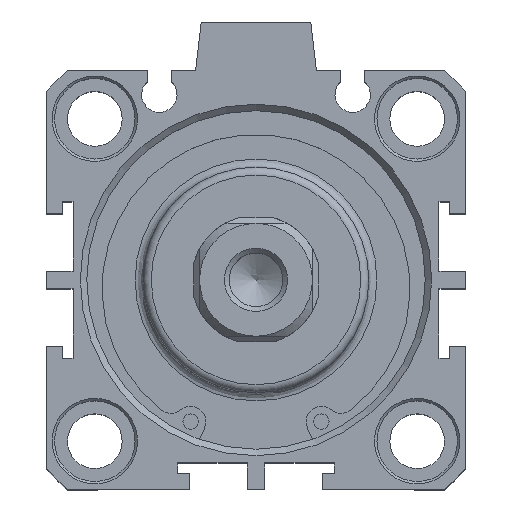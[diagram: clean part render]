
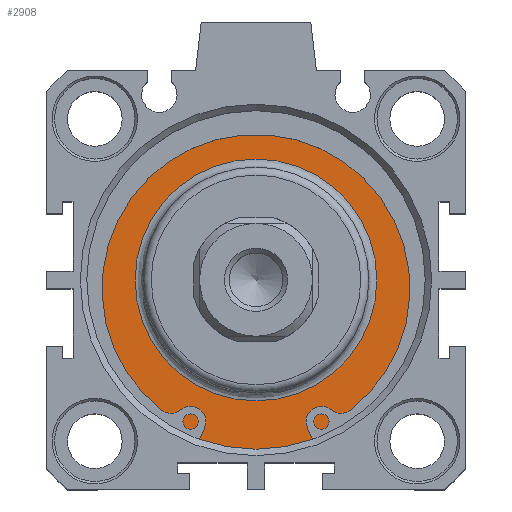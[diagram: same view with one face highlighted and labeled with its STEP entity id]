
A CAD part, top view. The second image highlights one B-rep face of the part: STEP entity #2908.
In plain terms, the highlighted planar face has unit normal (0, 0, 1).
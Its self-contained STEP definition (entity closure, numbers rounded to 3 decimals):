
#2857=CARTESIAN_POINT('',(0.598,16.555,32.4));
#2858=VERTEX_POINT('',#2857);
#2859=CARTESIAN_POINT('',(0.598,1.555,32.4));
#2860=DIRECTION('',(0.0,0.0,1.0));
#2861=DIRECTION('',(0.0,-1.0,0.0));
#2862=AXIS2_PLACEMENT_3D('',#2859,#2860,#2861);
#2863=CIRCLE('',#2862,15.);
#2864=EDGE_CURVE('',#2858,#2858,#2863,.T.);
#2889=CARTESIAN_POINT('',(0.598,19.055,32.4));
#2890=DIRECTION('',(0.0,0.0,1.0));
#2891=DIRECTION('',(1.0,0.0,0.0));
#2892=AXIS2_PLACEMENT_3D('',#2889,#2890,#2891);
#2893=PLANE('',#2892);
#2894=CARTESIAN_POINT('',(0.598,22.555,32.4));
#2895=VERTEX_POINT('',#2894);
#2896=CARTESIAN_POINT('',(0.598,1.555,32.4));
#2897=DIRECTION('',(0.0,0.0,-1.0));
#2898=DIRECTION('',(0.0,1.0,0.0));
#2899=AXIS2_PLACEMENT_3D('',#2896,#2897,#2898);
#2900=CIRCLE('',#2899,21.);
#2901=EDGE_CURVE('',#2895,#2895,#2900,.T.);
#2902=ORIENTED_EDGE('',*,*,#2901,.F.);
#2903=EDGE_LOOP('',(#2902));
#2904=FACE_OUTER_BOUND('',#2903,.T.);
#2905=ORIENTED_EDGE('',*,*,#2864,.F.);
#2906=EDGE_LOOP('',(#2905));
#2907=FACE_BOUND('',#2906,.T.);
#2908=ADVANCED_FACE('',(#2904,#2907),#2893,.T.);
